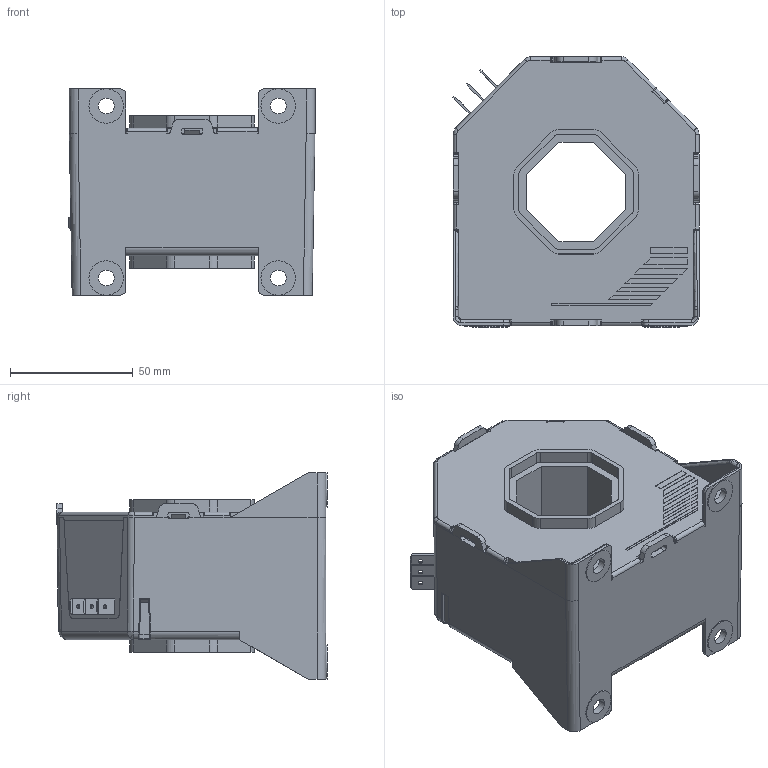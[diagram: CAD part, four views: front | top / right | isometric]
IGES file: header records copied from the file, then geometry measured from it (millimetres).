
Start section: Elysium IGES Interface
Global section: file name: C:\Documents and Settings\lpt\Desktop\LT 1005-S.igs; native system: CoCreate Modeling 17.0B  09-Oct-2010; preprocessor: CoCreate IGES_3D V2.2; author: Unknown; organization: Unknown; date: 20120123.154050; units: millimetre
Bounding box: 100.12 x 110 x 84 mm (x, y, z)
Volume: 453470.7 mm3; surface area: 70684.6 mm2
Topology: 1 solids, 9 shells, 1387 faces, 3841 edges, 2490 vertices
Faces by surface type: bspline 1387
